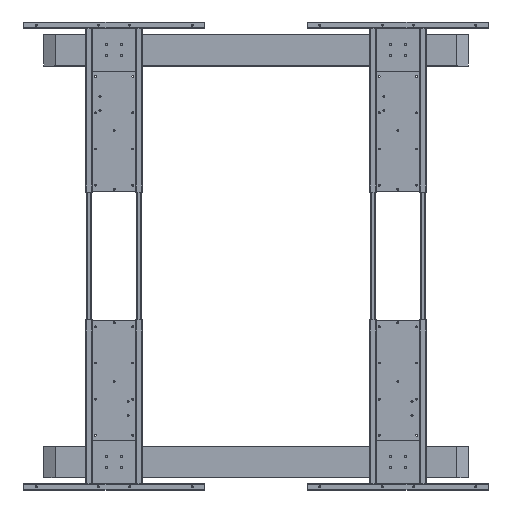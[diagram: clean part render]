
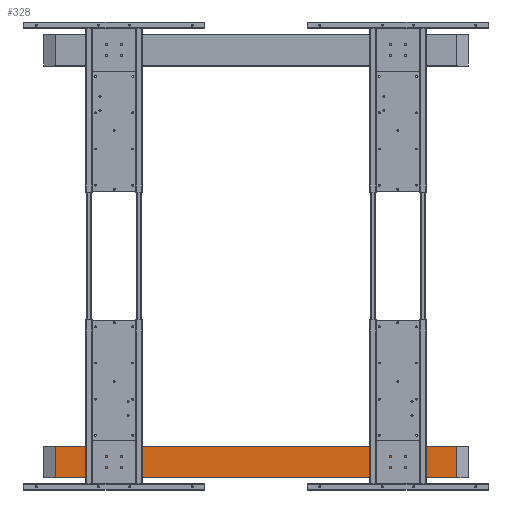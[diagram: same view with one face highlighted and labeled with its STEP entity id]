
A CAD part, top view. The second image highlights one B-rep face of the part: STEP entity #328.
In plain terms, the highlighted planar face has unit normal (0, 0, 1).
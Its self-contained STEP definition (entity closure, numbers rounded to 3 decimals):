
#328 = ADVANCED_FACE( '', ( #719, #720, #721, #722, #723, #724, #725, #726, #727 ), #728, .F. );
#719 = FACE_BOUND( '', #1447, .T. );
#720 = FACE_BOUND( '', #1448, .T. );
#721 = FACE_BOUND( '', #1449, .T. );
#722 = FACE_BOUND( '', #1450, .T. );
#723 = FACE_BOUND( '', #1451, .T. );
#724 = FACE_BOUND( '', #1452, .T. );
#725 = FACE_BOUND( '', #1453, .T. );
#726 = FACE_BOUND( '', #1454, .T. );
#727 = FACE_OUTER_BOUND( '', #1455, .T. );
#728 = PLANE( '', #1456 );
#1447 = EDGE_LOOP( '', ( #2209 ) );
#1448 = EDGE_LOOP( '', ( #2210 ) );
#1449 = EDGE_LOOP( '', ( #2211 ) );
#1450 = EDGE_LOOP( '', ( #2212 ) );
#1451 = EDGE_LOOP( '', ( #2213 ) );
#1452 = EDGE_LOOP( '', ( #2214 ) );
#1453 = EDGE_LOOP( '', ( #2215 ) );
#1454 = EDGE_LOOP( '', ( #2216 ) );
#1455 = EDGE_LOOP( '', ( #2217, #2218, #2219, #2220 ) );
#1456 = AXIS2_PLACEMENT_3D( '', #2221, #2222, #2223 );
#2209 = ORIENTED_EDGE( '', *, *, #3458, .F. );
#2210 = ORIENTED_EDGE( '', *, *, #3459, .F. );
#2211 = ORIENTED_EDGE( '', *, *, #3460, .F. );
#2212 = ORIENTED_EDGE( '', *, *, #3461, .F. );
#2213 = ORIENTED_EDGE( '', *, *, #3462, .F. );
#2214 = ORIENTED_EDGE( '', *, *, #3463, .F. );
#2215 = ORIENTED_EDGE( '', *, *, #3464, .F. );
#2216 = ORIENTED_EDGE( '', *, *, #3465, .F. );
#2217 = ORIENTED_EDGE( '', *, *, #3466, .T. );
#2218 = ORIENTED_EDGE( '', *, *, #3467, .F. );
#2219 = ORIENTED_EDGE( '', *, *, #3468, .F. );
#2220 = ORIENTED_EDGE( '', *, *, #3406, .T. );
#2221 = CARTESIAN_POINT( '', ( -12., 50., 32.5 ) );
#2222 = DIRECTION( '', ( 0., 0., -1. ) );
#2223 = DIRECTION( '', ( -1., 0., 0. ) );
#3406 = EDGE_CURVE( '', #3898, #3896, #3899, .T. );
#3458 = EDGE_CURVE( '', #3987, #3987, #3988, .F. );
#3459 = EDGE_CURVE( '', #3989, #3989, #3990, .F. );
#3460 = EDGE_CURVE( '', #3991, #3991, #3992, .F. );
#3461 = EDGE_CURVE( '', #3993, #3993, #3994, .F. );
#3462 = EDGE_CURVE( '', #3995, #3995, #3996, .F. );
#3463 = EDGE_CURVE( '', #3997, #3997, #3998, .F. );
#3464 = EDGE_CURVE( '', #3999, #3999, #4000, .F. );
#3465 = EDGE_CURVE( '', #4001, #4001, #4002, .F. );
#3466 = EDGE_CURVE( '', #3896, #4003, #4004, .T. );
#3467 = EDGE_CURVE( '', #4005, #4003, #4006, .T. );
#3468 = EDGE_CURVE( '', #3898, #4005, #4007, .T. );
#3896 = VERTEX_POINT( '', #4666 );
#3898 = VERTEX_POINT( '', #4669 );
#3899 = LINE( '', #4670, #4671 );
#3987 = VERTEX_POINT( '', #4782 );
#3988 = CIRCLE( '', #4783, 3.35 );
#3989 = VERTEX_POINT( '', #4784 );
#3990 = CIRCLE( '', #4785, 3.35 );
#3991 = VERTEX_POINT( '', #4786 );
#3992 = CIRCLE( '', #4787, 3.35 );
#3993 = VERTEX_POINT( '', #4788 );
#3994 = CIRCLE( '', #4789, 3.35 );
#3995 = VERTEX_POINT( '', #4790 );
#3996 = CIRCLE( '', #4791, 3.35 );
#3997 = VERTEX_POINT( '', #4792 );
#3998 = CIRCLE( '', #4793, 3.35 );
#3999 = VERTEX_POINT( '', #4794 );
#4000 = CIRCLE( '', #4795, 3.35 );
#4001 = VERTEX_POINT( '', #4796 );
#4002 = CIRCLE( '', #4797, 3.35 );
#4003 = VERTEX_POINT( '', #4798 );
#4004 = LINE( '', #4799, #4800 );
#4005 = VERTEX_POINT( '', #4801 );
#4006 = LINE( '', #4802, #4803 );
#4007 = LINE( '', #4804, #4805 );
#4666 = CARTESIAN_POINT( '', ( -12., -50., 32.5 ) );
#4669 = CARTESIAN_POINT( '', ( -12., 50., 32.5 ) );
#4670 = CARTESIAN_POINT( '', ( -12., 50., 32.5 ) );
#4671 = VECTOR( '', #5603, 1000. );
#4782 = CARTESIAN_POINT( '', ( 1107.65, 24., 32.5 ) );
#4783 = AXIS2_PLACEMENT_3D( '', #5672, #5673, #5674 );
#4784 = CARTESIAN_POINT( '', ( 1107.65, -24., 32.5 ) );
#4785 = AXIS2_PLACEMENT_3D( '', #5675, #5676, #5677 );
#4786 = CARTESIAN_POINT( '', ( 1059.65, -24., 32.5 ) );
#4787 = AXIS2_PLACEMENT_3D( '', #5678, #5679, #5680 );
#4788 = CARTESIAN_POINT( '', ( 1059.65, 24., 32.5 ) );
#4789 = AXIS2_PLACEMENT_3D( '', #5681, #5682, #5683 );
#4790 = CARTESIAN_POINT( '', ( 197.65, 24., 32.5 ) );
#4791 = AXIS2_PLACEMENT_3D( '', #5684, #5685, #5686 );
#4792 = CARTESIAN_POINT( '', ( 197.65, -24., 32.5 ) );
#4793 = AXIS2_PLACEMENT_3D( '', #5687, #5688, #5689 );
#4794 = CARTESIAN_POINT( '', ( 149.65, -24., 32.5 ) );
#4795 = AXIS2_PLACEMENT_3D( '', #5690, #5691, #5692 );
#4796 = CARTESIAN_POINT( '', ( 149.65, 24., 32.5 ) );
#4797 = AXIS2_PLACEMENT_3D( '', #5693, #5694, #5695 );
#4798 = CARTESIAN_POINT( '', ( 1276., -50., 32.5 ) );
#4799 = CARTESIAN_POINT( '', ( -12., -50., 32.5 ) );
#4800 = VECTOR( '', #5696, 1000. );
#4801 = CARTESIAN_POINT( '', ( 1276., 50., 32.5 ) );
#4802 = CARTESIAN_POINT( '', ( 1276., 50., 32.5 ) );
#4803 = VECTOR( '', #5697, 1000. );
#4804 = CARTESIAN_POINT( '', ( -12., 50., 32.5 ) );
#4805 = VECTOR( '', #5698, 1000. );
#5603 = DIRECTION( '', ( 0., -1., 0. ) );
#5672 = CARTESIAN_POINT( '', ( 1111., 24., 32.5 ) );
#5673 = DIRECTION( '', ( 0., 0., -1. ) );
#5674 = DIRECTION( '', ( -1., 0., 0. ) );
#5675 = CARTESIAN_POINT( '', ( 1111., -24., 32.5 ) );
#5676 = DIRECTION( '', ( 0., 0., -1. ) );
#5677 = DIRECTION( '', ( -1., 0., 0. ) );
#5678 = CARTESIAN_POINT( '', ( 1063., -24., 32.5 ) );
#5679 = DIRECTION( '', ( 0., 0., -1. ) );
#5680 = DIRECTION( '', ( -1., 0., 0. ) );
#5681 = CARTESIAN_POINT( '', ( 1063., 24., 32.5 ) );
#5682 = DIRECTION( '', ( 0., 0., -1. ) );
#5683 = DIRECTION( '', ( -1., 0., 0. ) );
#5684 = CARTESIAN_POINT( '', ( 201., 24., 32.5 ) );
#5685 = DIRECTION( '', ( 0., 0., -1. ) );
#5686 = DIRECTION( '', ( -1., 0., 0. ) );
#5687 = CARTESIAN_POINT( '', ( 201., -24., 32.5 ) );
#5688 = DIRECTION( '', ( 0., 0., -1. ) );
#5689 = DIRECTION( '', ( -1., 0., 0. ) );
#5690 = CARTESIAN_POINT( '', ( 153., -24., 32.5 ) );
#5691 = DIRECTION( '', ( 0., 0., -1. ) );
#5692 = DIRECTION( '', ( -1., 0., 0. ) );
#5693 = CARTESIAN_POINT( '', ( 153., 24., 32.5 ) );
#5694 = DIRECTION( '', ( 0., 0., -1. ) );
#5695 = DIRECTION( '', ( -1., 0., 0. ) );
#5696 = DIRECTION( '', ( 1., 0., 0. ) );
#5697 = DIRECTION( '', ( 0., -1., 0. ) );
#5698 = DIRECTION( '', ( 1., 0., 0. ) );
